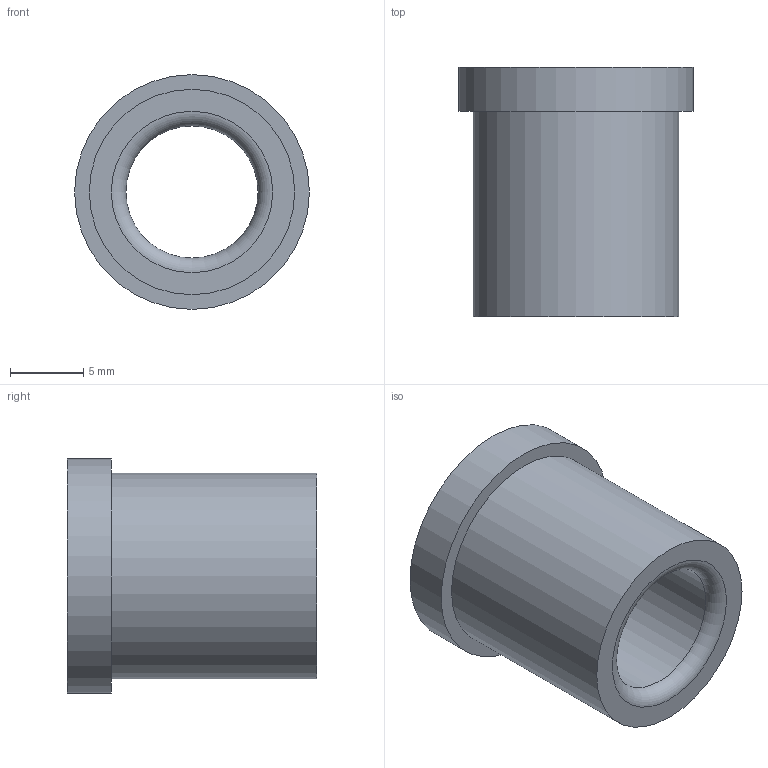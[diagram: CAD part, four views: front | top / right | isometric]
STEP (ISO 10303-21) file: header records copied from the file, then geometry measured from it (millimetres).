
FILE_DESCRIPTION(/* description */ ('STEP AP214'),/* implementation_level */ '2;1');
FILE_NAME(/* name */ '03_12_17831',/* time_stamp */ '2023-06-15T11:35:20+02:00',/* author */ ('License CC BY-ND 4.0'),/* organization */ ('CADENAS'),/* preprocessor_version */ 'ST-DEVELOPER v19.3',/* originating_system */ 'PARTsolutions',/* authorisation */ ' ');
FILE_SCHEMA (('AUTOMOTIVE_DESIGN {1 0 10303 214 3 1 1}'));
Length unit declared in the file: millimetre
Products named in the file (1): VA_Bushing_17831
Bounding box: 16 x 17 x 16 mm (x, y, z)
Volume: 1633.9 mm3; surface area: 1504.3 mm2
Topology: 1 solids, 1 shells, 10 faces, 16 edges, 10 vertices
Faces by surface type: cylinder 4, plane 4, torus 2
Full cylindrical faces by diameter (mm): 9 x1, 9.6 x1, 14 x1, 16 x1
Entity records: 302 total; most frequent: DIRECTION 42, CARTESIAN_POINT 31, AXIS2_PLACEMENT_3D 21, ORIENTED_EDGE 20, EDGE_LOOP 20, FACE_BOUND 20, EDGE_CURVE 10, VERTEX_POINT 10
